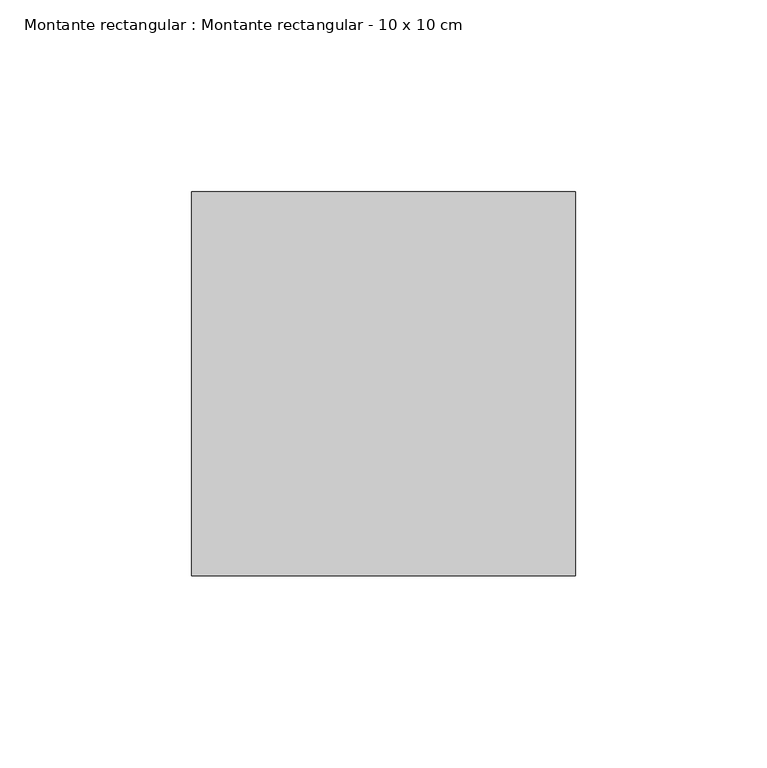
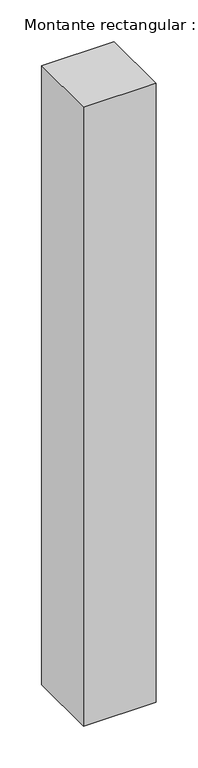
"""IFC4 building model written with IfcOpenShell, lengths in millimetres: member geometry, Montante rectangular : Montante rectangular - 10 x 10 cm."""

import ifcopenshell
import ifcopenshell.guid

model = None  # the IFC model being written
_history = None  # IfcOwnerHistory: only IFC2X3 demands one
_inside = {}  # id of a spatial element -> (the spatial element, [elements in it])
_under = {}  # id of a project, library or spatial element -> (it, [spatial elements below it])
_declared = {}  # id of a project -> (the project, [libraries it declares])
_typed = {}  # id of a type object -> (the type object, [elements of that type])
_made_of = {}  # id of a material, layer set ... -> (it, [elements and type objects made of it])


def new_model(schema):
    """Start an empty IFC model of exactly this schema.

    Asked for "IFC4X3", IfcOpenShell would pick the latest addendum, in which some entities
    have other attributes; the version numbers below select the first issue.
    IFC2X3 requires an IfcOwnerHistory on every rooted entity: one is made here for all.
    """
    global model, _history
    if schema == "IFC4X3":
        model = ifcopenshell.file(schema_version=(4, 3, 0, 0))
    else:
        model = ifcopenshell.file(schema=schema)
    _inside.clear()
    _under.clear()
    _declared.clear()
    _typed.clear()
    _made_of.clear()
    _history = None
    if model.schema == "IFC2X3":
        org = make("IfcOrganization", Name="unknown")
        user = make(
            "IfcPersonAndOrganization",
            ThePerson=make("IfcPerson", FamilyName="unknown"),
            TheOrganization=org,
        )
        app = make(
            "IfcApplication",
            ApplicationDeveloper=org,
            Version="unknown",
            ApplicationFullName="unknown",
            ApplicationIdentifier="unknown",
        )
        _history = make(
            "IfcOwnerHistory",
            OwningUser=user,
            OwningApplication=app,
            ChangeAction="ADDED",
            CreationDate=0,
        )
    return model


def make(cls, **values):
    """One entity of the class cls with the attributes given. An attribute that is None is left unset."""
    return model.create_entity(
        cls, **{name: value for name, value in values.items() if value is not None}
    )


def rooted(cls, **values):
    """An entity with a GlobalId (a new one), such as an element, a storey or a relation."""
    return make(cls, GlobalId=ifcopenshell.guid.new(), OwnerHistory=_history, **values)


def si_unit(unit_type, name, prefix=None):
    """IfcSIUnit, for example si_unit("LENGTHUNIT", "METRE", prefix="MILLI")."""
    return make("IfcSIUnit", UnitType=unit_type, Prefix=prefix, Name=name)


def assignment(units):
    """IfcUnitAssignment: the units of a project."""
    return None if units is None else make("IfcUnitAssignment", Units=units)


def point(xyz):
    """IfcCartesianPoint."""
    return None if xyz is None else make("IfcCartesianPoint", Coordinates=xyz)


def direction(xyz):
    """IfcDirection."""
    return None if xyz is None else make("IfcDirection", DirectionRatios=xyz)


def frame(location, z_axis=None, x_axis=None):
    """IfcAxis2Placement3D, a coordinate frame: its origin and axes. An axis left out is left unset."""
    return make(
        "IfcAxis2Placement3D",
        Location=point(location),
        Axis=direction(z_axis),
        RefDirection=direction(x_axis),
    )


def origin():
    """The frame at (0, 0, 0) with its axes left unset."""
    return frame((0.0, 0.0, 0.0))


def place(relative_to, where):
    """IfcLocalPlacement: puts the frame where relative to a parent placement (None: the world)."""
    return make(
        "IfcLocalPlacement", PlacementRelTo=relative_to, RelativePlacement=where
    )


def context(
    kind, dimensions, precision=None, world=None, true_north=None, identifier=None
):
    """IfcGeometricRepresentationContext, for example the 3D "Model" context."""
    return make(
        "IfcGeometricRepresentationContext",
        ContextIdentifier=identifier,
        ContextType=kind,
        CoordinateSpaceDimension=dimensions,
        Precision=precision,
        WorldCoordinateSystem=world,
        TrueNorth=true_north,
    )


def project(units=None, contexts=None):
    """IfcProject with its units and contexts."""
    return rooted(
        "IfcProject",
        Name="project",
        RepresentationContexts=contexts,
        UnitsInContext=assignment(units),
    )


def spatial(cls, under=None, at=None, **own):
    """A site, building, storey or space (cls), placed at a placement, below another one or the project."""
    s = rooted(cls, ObjectPlacement=at, **own)
    if under is not None:
        _under.setdefault(under.id(), (under, []))[1].append(s)
    return s


def polyline(points):
    """IfcPolyline through the points."""
    return make("IfcPolyline", Points=[point(p) for p in points])


def outline(outer, holes=None, kind="AREA"):
    """IfcArbitraryClosedProfileDef: a profile drawn as a closed curve; with holes, ...WithVoids."""
    if holes is None:
        return make("IfcArbitraryClosedProfileDef", ProfileType=kind, OuterCurve=outer)
    return make(
        "IfcArbitraryProfileDefWithVoids",
        ProfileType=kind,
        OuterCurve=outer,
        InnerCurves=holes,
    )


def extrude(swept, where, along, depth):
    """IfcExtrudedAreaSolid: the profile swept, set in the frame where, extruded along a direction by depth."""
    return make(
        "IfcExtrudedAreaSolid",
        SweptArea=swept,
        Position=where,
        ExtrudedDirection=direction(along),
        Depth=depth,
    )


def shape(context_of_items, identifier, shape_type, items):
    """IfcShapeRepresentation: the items that make up one representation, for example the "Body"."""
    return make(
        "IfcShapeRepresentation",
        ContextOfItems=context_of_items,
        RepresentationIdentifier=identifier,
        RepresentationType=shape_type,
        Items=items,
    )


def source(mapping_origin, context_of_items, identifier, shape_type, items):
    """IfcRepresentationMap: a shape defined once, which mapped items show again and again."""
    return make(
        "IfcRepresentationMap",
        MappingOrigin=mapping_origin,
        MappedRepresentation=shape(context_of_items, identifier, shape_type, items),
    )


def transform(
    local_origin,
    x_axis=None,
    y_axis=None,
    z_axis=None,
    scale=None,
    scale2=None,
    scale3=None,
    uniform=True,
):
    """IfcCartesianTransformationOperator3D, or its non-uniform kind. x_axis, y_axis, z_axis: its Axis1, 2, 3."""
    if uniform:
        return make(
            "IfcCartesianTransformationOperator3D",
            Axis1=direction(x_axis),
            Axis2=direction(y_axis),
            LocalOrigin=point(local_origin),
            Scale=scale,
            Axis3=direction(z_axis),
        )
    return make(
        "IfcCartesianTransformationOperator3DnonUniform",
        Axis1=direction(x_axis),
        Axis2=direction(y_axis),
        LocalOrigin=point(local_origin),
        Scale=scale,
        Axis3=direction(z_axis),
        Scale2=scale2,
        Scale3=scale3,
    )


def mapped(mapping_source, mapping_target):
    """IfcMappedItem: shows the shape of a source again, moved by a transform."""
    return make(
        "IfcMappedItem", MappingSource=mapping_source, MappingTarget=mapping_target
    )


def made_of(thing, what):
    """Note that an element or type object is made of a material, layer set ...; save() writes the relation."""
    if what is not None:
        _made_of.setdefault(what.id(), (what, []))[1].append(thing)
    return thing


def element(
    cls,
    number,
    at=None,
    inside=None,
    cuts=None,
    type_object=None,
    material=None,
    context=None,
    identifier="Body",
    shape_type=None,
    held_by="IfcProductDefinitionShape",
    body=None,
    shapes=None,
    **own,
):
    """One element of the class cls, such as IfcWall. Its Tag is "e" and its number.

    at: its placement. inside: the storey or other place that contains it. cuts: it is an
    opening in that element (IfcRelVoidsElement). A single representation is given by context,
    identifier, shape_type and body (its items); several are given by shapes. held_by: the class
    of the entity that holds the representations. save() writes the other relations.
    """
    e = rooted(cls, Tag="e%d" % number, ObjectPlacement=at, **own)
    if body is not None:
        shapes = [shape(context, identifier, shape_type, body)]
    if shapes is not None:
        e.Representation = make(held_by, Representations=shapes)
    if inside is not None:
        _inside.setdefault(inside.id(), (inside, []))[1].append(e)
    if cuts is not None:
        rooted(
            "IfcRelVoidsElement", RelatingBuildingElement=cuts, RelatedOpeningElement=e
        )
    if type_object is not None:
        _typed.setdefault(type_object.id(), (type_object, []))[1].append(e)
    return made_of(e, material)


def aggregate(whole, parts):
    """IfcRelAggregates: a whole, such as a stair, and the parts it consists of."""
    return rooted("IfcRelAggregates", RelatingObject=whole, RelatedObjects=parts)


def save(model, path):
    """Write the relations noted so far, then the file.

    IfcRelAggregates (storeys below a building ...), IfcRelContainedInSpatialStructure (elements
    in a storey), IfcRelDefinesByType, IfcRelAssociatesMaterial and IfcRelDeclares: one each for
    every whole, place, type object, material and project.
    """
    for whole, parts in _under.values():
        aggregate(whole, parts)
    for where, things in _inside.values():
        rooted(
            "IfcRelContainedInSpatialStructure",
            RelatedElements=things,
            RelatingStructure=where,
        )
    for kind, things in _typed.values():
        rooted("IfcRelDefinesByType", RelatedObjects=things, RelatingType=kind)
    for what, things in _made_of.values():
        rooted("IfcRelAssociatesMaterial", RelatedObjects=things, RelatingMaterial=what)
    for by, libraries in _declared.values():
        rooted("IfcRelDeclares", RelatingContext=by, RelatedDefinitions=libraries)
    model.write(path)


def montante_rectangular_montante_rectangular_10_x_10_cm_39c741db(model_context):
    return source(origin(), model_context, "Body", "SweptSolid", [
        extrude(outline(polyline([(0.0, -50.0), (-100.0, -50.0), (-100.0, 50.0), (0.0, 50.0), (0.0, -50.0)])), frame((0.0, 0.0, -901.93384), z_axis=(0.0, 0.0, 1.0), x_axis=(1.0, 0.0, 0.0)), (0.0, 0.0, 1.0), 901.93384),
    ])


if __name__ == "__main__":
    model = new_model("IFC4")
    model_context = context("Model", 3, world=origin())
    ifc_project = project(units=[si_unit("LENGTHUNIT", "METRE", prefix="MILLI")], contexts=[model_context])
    site = spatial("IfcSite", under=ifc_project)
    building = spatial("IfcBuilding", under=site)
    placement = place(None, origin())
    montante_rectangular_montante_rectangular_10_x_10_cm_shape = montante_rectangular_montante_rectangular_10_x_10_cm_39c741db(model_context)
    element("IfcMember", 1, ObjectType="Montante rectangular : Montante rectangular - 10 x 10 cm", at=placement, inside=building, context=model_context, shape_type="MappedRepresentation", body=[
        mapped(montante_rectangular_montante_rectangular_10_x_10_cm_shape, transform((0.0, 0.0, 0.0), x_axis=(1.0, 0.0, 0.0), y_axis=(0.0, 1.0, 0.0), z_axis=(0.0, 0.0, 1.0))),
    ])
    save(model, "model.ifc")
